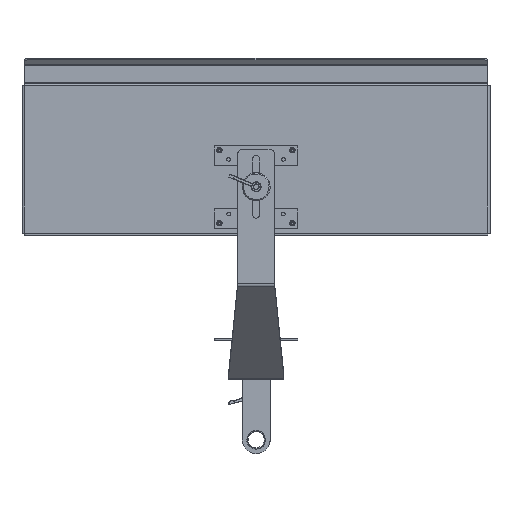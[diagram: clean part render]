
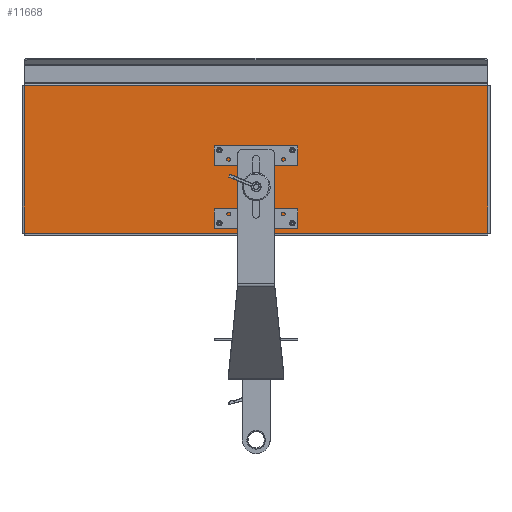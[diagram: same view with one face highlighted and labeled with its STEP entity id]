
A CAD part, front view. The second image highlights one B-rep face of the part: STEP entity #11668.
In plain terms, the highlighted planar face has unit normal (0, -1, 0).
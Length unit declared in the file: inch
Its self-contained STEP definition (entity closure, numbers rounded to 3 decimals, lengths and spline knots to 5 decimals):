
#110 = DIRECTION ( 'NONE',  ( 0., -1., 0. ) ) ;
#583 = DIRECTION ( 'NONE',  ( 0., 0., -1. ) ) ;
#1074 = EDGE_LOOP ( 'NONE', ( #13618, #14829, #12742, #18860 ) ) ;
#1096 = CARTESIAN_POINT ( 'NONE',  ( 1.9685, -0.09, 0.37346 ) ) ;
#1253 = AXIS2_PLACEMENT_3D ( 'NONE', #9212, #18986, #11474 ) ;
#1679 = DIRECTION ( 'NONE',  ( 0., -1., 0. ) ) ;
#1707 = PLANE ( 'NONE',  #1253 ) ;
#2181 = FACE_BOUND ( 'NONE', #8291, .T. ) ;
#2473 = CARTESIAN_POINT ( 'NONE',  ( 1.9685, -0.09, -3.4685 ) ) ;
#3167 = ORIENTED_EDGE ( 'NONE', *, *, #17255, .F. ) ;
#3173 = VECTOR ( 'NONE', #3419, 39.37008 ) ;
#3419 = DIRECTION ( 'NONE',  ( 0., 0., -1. ) ) ;
#3538 = VERTEX_POINT ( 'NONE', #13031 ) ;
#3950 = EDGE_CURVE ( 'NONE', #24201, #14854, #10212, .T. ) ;
#4346 = EDGE_CURVE ( 'NONE', #10805, #3538, #25031, .T. ) ;
#4359 = VERTEX_POINT ( 'NONE', #26170 ) ;
#4601 = DIRECTION ( 'NONE',  ( 0., -1., 0. ) ) ;
#4968 = DIRECTION ( 'NONE',  ( -1., 0., 0. ) ) ;
#4975 = ORIENTED_EDGE ( 'NONE', *, *, #3950, .F. ) ;
#5245 = CIRCLE ( 'NONE', #26709, 0.09504 ) ;
#5407 = EDGE_LOOP ( 'NONE', ( #19334, #4975 ) ) ;
#5769 = ORIENTED_EDGE ( 'NONE', *, *, #9137, .F. ) ;
#6078 = CARTESIAN_POINT ( 'NONE',  ( -12.5, -0.09, 3.968 ) ) ;
#6317 = CARTESIAN_POINT ( 'NONE',  ( 12.5, -0.09, -4. ) ) ;
#6423 = DIRECTION ( 'NONE',  ( 0., -1., 0. ) ) ;
#6943 = DIRECTION ( 'NONE',  ( -1., 0., 0. ) ) ;
#7209 = EDGE_CURVE ( 'NONE', #4359, #9889, #16897, .T. ) ;
#7223 = ORIENTED_EDGE ( 'NONE', *, *, #25170, .F. ) ;
#7700 = DIRECTION ( 'NONE',  ( 0., 0., 1. ) ) ;
#8059 = LINE ( 'NONE', #13046, #3173 ) ;
#8087 = CARTESIAN_POINT ( 'NONE',  ( 1.9685, -0.09, -3.4685 ) ) ;
#8227 = CIRCLE ( 'NONE', #10298, 0.09504 ) ;
#8291 = EDGE_LOOP ( 'NONE', ( #7223, #16763 ) ) ;
#8597 = DIRECTION ( 'NONE',  ( 0., -1., 0. ) ) ;
#8640 = AXIS2_PLACEMENT_3D ( 'NONE', #2473, #16722, #26480 ) ;
#8684 = VERTEX_POINT ( 'NONE', #22821 ) ;
#8952 = CIRCLE ( 'NONE', #13571, 0.09504 ) ;
#9137 = EDGE_CURVE ( 'NONE', #11973, #8684, #5245, .T. ) ;
#9212 = CARTESIAN_POINT ( 'NONE',  ( 0., -0.09, 0. ) ) ;
#9231 = CARTESIAN_POINT ( 'NONE',  ( -1.9685, -0.09, -3.37346 ) ) ;
#9393 = CARTESIAN_POINT ( 'NONE',  ( -1.9685, -0.09, 0.4685 ) ) ;
#9486 = EDGE_CURVE ( 'NONE', #8684, #11973, #14430, .T. ) ;
#9889 = VERTEX_POINT ( 'NONE', #6078 ) ;
#9932 = CARTESIAN_POINT ( 'NONE',  ( 12.5, -0.09, -4. ) ) ;
#10084 = LINE ( 'NONE', #9932, #29668 ) ;
#10212 = CIRCLE ( 'NONE', #24534, 0.09504 ) ;
#10298 = AXIS2_PLACEMENT_3D ( 'NONE', #29956, #15512, #25292 ) ;
#10335 = AXIS2_PLACEMENT_3D ( 'NONE', #25127, #8597, #18377 ) ;
#10805 = VERTEX_POINT ( 'NONE', #19970 ) ;
#11474 = DIRECTION ( 'NONE',  ( 0., 0., -1. ) ) ;
#11595 = CARTESIAN_POINT ( 'NONE',  ( -1.9685, -0.09, -3.4685 ) ) ;
#11638 = CARTESIAN_POINT ( 'NONE',  ( -1.9685, -0.09, -3.4685 ) ) ;
#11668 = ADVANCED_FACE ( 'NONE', ( #14337, #28444, #2181, #11956, #21723 ), #1707, .T. ) ;
#11956 = FACE_BOUND ( 'NONE', #29398, .T. ) ;
#11973 = VERTEX_POINT ( 'NONE', #23141 ) ;
#12602 = CARTESIAN_POINT ( 'NONE',  ( -1.9685, -0.09, -3.56354 ) ) ;
#12742 = ORIENTED_EDGE ( 'NONE', *, *, #24577, .F. ) ;
#13031 = CARTESIAN_POINT ( 'NONE',  ( 1.9685, -0.09, -3.37346 ) ) ;
#13046 = CARTESIAN_POINT ( 'NONE',  ( 12.5, -0.09, -4. ) ) ;
#13571 = AXIS2_PLACEMENT_3D ( 'NONE', #8087, #6423, #583 ) ;
#13618 = ORIENTED_EDGE ( 'NONE', *, *, #25886, .F. ) ;
#13978 = CARTESIAN_POINT ( 'NONE',  ( -1.9685, -0.09, 0.4685 ) ) ;
#14337 = FACE_BOUND ( 'NONE', #5407, .T. ) ;
#14430 = CIRCLE ( 'NONE', #21083, 0.09504 ) ;
#14707 = EDGE_CURVE ( 'NONE', #23490, #14729, #26169, .T. ) ;
#14729 = VERTEX_POINT ( 'NONE', #15350 ) ;
#14829 = ORIENTED_EDGE ( 'NONE', *, *, #7209, .T. ) ;
#14854 = VERTEX_POINT ( 'NONE', #9231 ) ;
#15350 = CARTESIAN_POINT ( 'NONE',  ( 1.9685, -0.09, 0.56354 ) ) ;
#15512 = DIRECTION ( 'NONE',  ( 0., -1., 0. ) ) ;
#15899 = EDGE_LOOP ( 'NONE', ( #3167, #26055 ) ) ;
#16722 = DIRECTION ( 'NONE',  ( 0., -1., 0. ) ) ;
#16763 = ORIENTED_EDGE ( 'NONE', *, *, #14707, .F. ) ;
#16879 = DIRECTION ( 'NONE',  ( 0., 0., -1. ) ) ;
#16897 = LINE ( 'NONE', #28925, #26884 ) ;
#17255 = EDGE_CURVE ( 'NONE', #3538, #10805, #8952, .T. ) ;
#17643 = LINE ( 'NONE', #19713, #31230 ) ;
#18377 = DIRECTION ( 'NONE',  ( 0., 0., -1. ) ) ;
#18466 = CIRCLE ( 'NONE', #28725, 0.09504 ) ;
#18550 = EDGE_CURVE ( 'NONE', #14854, #24201, #18466, .T. ) ;
#18860 = ORIENTED_EDGE ( 'NONE', *, *, #30135, .F. ) ;
#18986 = DIRECTION ( 'NONE',  ( 0., -1., 0. ) ) ;
#19334 = ORIENTED_EDGE ( 'NONE', *, *, #18550, .F. ) ;
#19631 = DIRECTION ( 'NONE',  ( 0., 0., -1. ) ) ;
#19713 = CARTESIAN_POINT ( 'NONE',  ( -12.5, -0.09, -4. ) ) ;
#19970 = CARTESIAN_POINT ( 'NONE',  ( 1.9685, -0.09, -3.56354 ) ) ;
#20812 = CARTESIAN_POINT ( 'NONE',  ( -12.5, -0.09, -4. ) ) ;
#21083 = AXIS2_PLACEMENT_3D ( 'NONE', #13978, #21186, #23438 ) ;
#21186 = DIRECTION ( 'NONE',  ( 0., -1., 0. ) ) ;
#21723 = FACE_OUTER_BOUND ( 'NONE', #1074, .T. ) ;
#22821 = CARTESIAN_POINT ( 'NONE',  ( -1.9685, -0.09, 0.37346 ) ) ;
#23130 = VERTEX_POINT ( 'NONE', #20812 ) ;
#23141 = CARTESIAN_POINT ( 'NONE',  ( -1.9685, -0.09, 0.56354 ) ) ;
#23438 = DIRECTION ( 'NONE',  ( 0., 0., -1. ) ) ;
#23490 = VERTEX_POINT ( 'NONE', #1096 ) ;
#24201 = VERTEX_POINT ( 'NONE', #12602 ) ;
#24534 = AXIS2_PLACEMENT_3D ( 'NONE', #11638, #110, #19631 ) ;
#24577 = EDGE_CURVE ( 'NONE', #23130, #9889, #17643, .T. ) ;
#25031 = CIRCLE ( 'NONE', #8640, 0.09504 ) ;
#25127 = CARTESIAN_POINT ( 'NONE',  ( 1.9685, -0.09, 0.4685 ) ) ;
#25170 = EDGE_CURVE ( 'NONE', #14729, #23490, #8227, .T. ) ;
#25292 = DIRECTION ( 'NONE',  ( 0., 0., -1. ) ) ;
#25886 = EDGE_CURVE ( 'NONE', #4359, #28531, #8059, .T. ) ;
#26055 = ORIENTED_EDGE ( 'NONE', *, *, #4346, .F. ) ;
#26169 = CIRCLE ( 'NONE', #10335, 0.09504 ) ;
#26170 = CARTESIAN_POINT ( 'NONE',  ( 12.5, -0.09, 3.968 ) ) ;
#26480 = DIRECTION ( 'NONE',  ( 0., 0., -1. ) ) ;
#26709 = AXIS2_PLACEMENT_3D ( 'NONE', #9393, #4601, #28467 ) ;
#26884 = VECTOR ( 'NONE', #6943, 39.37008 ) ;
#27853 = ORIENTED_EDGE ( 'NONE', *, *, #9486, .F. ) ;
#28444 = FACE_BOUND ( 'NONE', #15899, .T. ) ;
#28467 = DIRECTION ( 'NONE',  ( 0., 0., -1. ) ) ;
#28531 = VERTEX_POINT ( 'NONE', #6317 ) ;
#28725 = AXIS2_PLACEMENT_3D ( 'NONE', #11595, #1679, #16879 ) ;
#28925 = CARTESIAN_POINT ( 'NONE',  ( 12.5, -0.09, 3.968 ) ) ;
#29398 = EDGE_LOOP ( 'NONE', ( #5769, #27853 ) ) ;
#29668 = VECTOR ( 'NONE', #4968, 39.37008 ) ;
#29956 = CARTESIAN_POINT ( 'NONE',  ( 1.9685, -0.09, 0.4685 ) ) ;
#30135 = EDGE_CURVE ( 'NONE', #28531, #23130, #10084, .T. ) ;
#31230 = VECTOR ( 'NONE', #7700, 39.37008 ) ;
